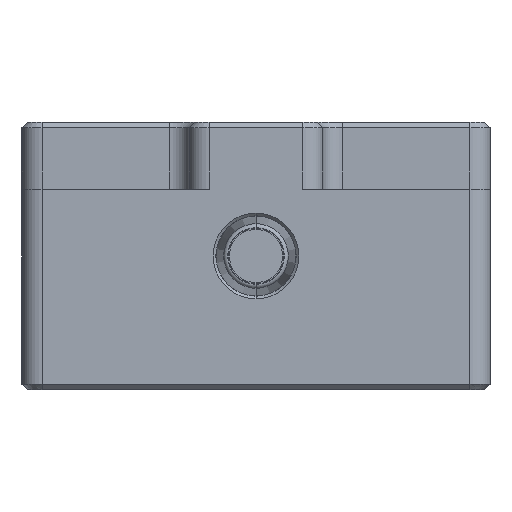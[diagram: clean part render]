
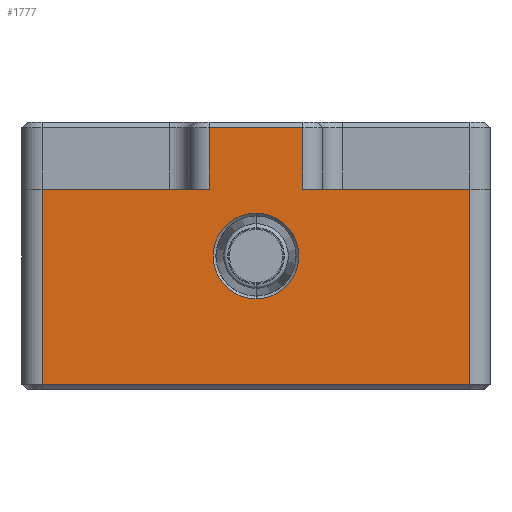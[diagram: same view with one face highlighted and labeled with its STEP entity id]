
A CAD part, front view. The second image highlights one B-rep face of the part: STEP entity #1777.
In plain terms, the highlighted planar face has unit normal (0, -1, 0).
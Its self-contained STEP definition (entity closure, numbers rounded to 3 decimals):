
#21 = VERTEX_POINT ( 'NONE', #1250 ) ;
#71 = LINE ( 'NONE', #2888, #2117 ) ;
#86 = LINE ( 'NONE', #2166, #2324 ) ;
#210 = DIRECTION ( 'NONE',  ( 0., 0., -1. ) ) ;
#214 = DIRECTION ( 'NONE',  ( 0., 0., 1. ) ) ;
#241 = CARTESIAN_POINT ( 'NONE',  ( 16., -42.5, 10. ) ) ;
#244 = AXIS2_PLACEMENT_3D ( 'NONE', #1549, #1976, #214 ) ;
#272 = CARTESIAN_POINT ( 'NONE',  ( 0., -42.5, -3.2 ) ) ;
#289 = AXIS2_PLACEMENT_3D ( 'NONE', #832, #614, #2659 ) ;
#291 = EDGE_LOOP ( 'NONE', ( #1436, #1842 ) ) ;
#363 = DIRECTION ( 'NONE',  ( 1., 0., 0. ) ) ;
#370 = EDGE_CURVE ( 'NONE', #2558, #982, #411, .T. ) ;
#381 = CARTESIAN_POINT ( 'NONE',  ( 3.5, -42.5, 10. ) ) ;
#392 = VECTOR ( 'NONE', #2486, 1000. ) ;
#404 = DIRECTION ( 'NONE',  ( 1., 0., 0. ) ) ;
#411 = LINE ( 'NONE', #2753, #2137 ) ;
#430 = DIRECTION ( 'NONE',  ( 1., 0., 0. ) ) ;
#441 = VERTEX_POINT ( 'NONE', #1716 ) ;
#477 = VERTEX_POINT ( 'NONE', #2850 ) ;
#482 = LINE ( 'NONE', #1585, #930 ) ;
#526 = CARTESIAN_POINT ( 'NONE',  ( 0., -42.5, 3.2 ) ) ;
#528 = DIRECTION ( 'NONE',  ( 0., 0., 1. ) ) ;
#531 = EDGE_CURVE ( 'NONE', #2450, #1739, #767, .T. ) ;
#542 = LINE ( 'NONE', #1766, #1069 ) ;
#548 = ORIENTED_EDGE ( 'NONE', *, *, #1004, .T. ) ;
#614 = DIRECTION ( 'NONE',  ( 0., 1., 0. ) ) ;
#660 = CARTESIAN_POINT ( 'NONE',  ( 17.5, -42.5, 5. ) ) ;
#698 = DIRECTION ( 'NONE',  ( -1., 0., 0. ) ) ;
#754 = PLANE ( 'NONE',  #244 ) ;
#767 = CIRCLE ( 'NONE', #289, 3.2 ) ;
#772 = EDGE_CURVE ( 'NONE', #477, #982, #86, .T. ) ;
#798 = ORIENTED_EDGE ( 'NONE', *, *, #1187, .T. ) ;
#832 = CARTESIAN_POINT ( 'NONE',  ( 0., -42.5, 0. ) ) ;
#853 = EDGE_CURVE ( 'NONE', #21, #441, #2717, .T. ) ;
#920 = VERTEX_POINT ( 'NONE', #1342 ) ;
#930 = VECTOR ( 'NONE', #698, 1000. ) ;
#943 = EDGE_CURVE ( 'NONE', #477, #1851, #542, .T. ) ;
#982 = VERTEX_POINT ( 'NONE', #2520 ) ;
#1004 = EDGE_CURVE ( 'NONE', #1080, #2558, #482, .T. ) ;
#1069 = VECTOR ( 'NONE', #210, 1000. ) ;
#1080 = VERTEX_POINT ( 'NONE', #1482 ) ;
#1089 = ORIENTED_EDGE ( 'NONE', *, *, #772, .F. ) ;
#1119 = FACE_BOUND ( 'NONE', #291, .T. ) ;
#1187 = EDGE_CURVE ( 'NONE', #1851, #920, #71, .T. ) ;
#1250 = CARTESIAN_POINT ( 'NONE',  ( 3.5, -42.5, 5. ) ) ;
#1275 = ORIENTED_EDGE ( 'NONE', *, *, #2188, .T. ) ;
#1277 = EDGE_CURVE ( 'NONE', #920, #441, #2871, .T. ) ;
#1342 = CARTESIAN_POINT ( 'NONE',  ( 16., -42.5, -9.6 ) ) ;
#1373 = AXIS2_PLACEMENT_3D ( 'NONE', #2564, #1434, #528 ) ;
#1392 = LINE ( 'NONE', #381, #2464 ) ;
#1434 = DIRECTION ( 'NONE',  ( 0., 1., 0. ) ) ;
#1436 = ORIENTED_EDGE ( 'NONE', *, *, #531, .T. ) ;
#1462 = EDGE_CURVE ( 'NONE', #1739, #2450, #2086, .T. ) ;
#1482 = CARTESIAN_POINT ( 'NONE',  ( 3.5, -42.5, 9.6 ) ) ;
#1549 = CARTESIAN_POINT ( 'NONE',  ( -17.5, -42.5, 10. ) ) ;
#1585 = CARTESIAN_POINT ( 'NONE',  ( -3.5, -42.5, 9.6 ) ) ;
#1595 = CARTESIAN_POINT ( 'NONE',  ( -3.5, -42.5, 9.6 ) ) ;
#1686 = ORIENTED_EDGE ( 'NONE', *, *, #853, .F. ) ;
#1716 = CARTESIAN_POINT ( 'NONE',  ( 16., -42.5, 5. ) ) ;
#1739 = VERTEX_POINT ( 'NONE', #526 ) ;
#1766 = CARTESIAN_POINT ( 'NONE',  ( -16., -42.5, 10. ) ) ;
#1777 = ADVANCED_FACE ( 'NONE', ( #1119, #1978 ), #754, .F. ) ;
#1842 = ORIENTED_EDGE ( 'NONE', *, *, #1462, .T. ) ;
#1846 = DIRECTION ( 'NONE',  ( 0., 0., -1. ) ) ;
#1851 = VERTEX_POINT ( 'NONE', #2230 ) ;
#1976 = DIRECTION ( 'NONE',  ( 0., 1., 0. ) ) ;
#1978 = FACE_OUTER_BOUND ( 'NONE', #2893, .T. ) ;
#2062 = ORIENTED_EDGE ( 'NONE', *, *, #370, .T. ) ;
#2086 = CIRCLE ( 'NONE', #1373, 3.2 ) ;
#2117 = VECTOR ( 'NONE', #430, 1000. ) ;
#2137 = VECTOR ( 'NONE', #1846, 1000. ) ;
#2166 = CARTESIAN_POINT ( 'NONE',  ( -17.5, -42.5, 5. ) ) ;
#2188 = EDGE_CURVE ( 'NONE', #21, #1080, #1392, .T. ) ;
#2230 = CARTESIAN_POINT ( 'NONE',  ( -16., -42.5, -9.6 ) ) ;
#2288 = ORIENTED_EDGE ( 'NONE', *, *, #943, .T. ) ;
#2320 = ORIENTED_EDGE ( 'NONE', *, *, #1277, .T. ) ;
#2324 = VECTOR ( 'NONE', #363, 1000. ) ;
#2450 = VERTEX_POINT ( 'NONE', #272 ) ;
#2464 = VECTOR ( 'NONE', #2670, 1000. ) ;
#2486 = DIRECTION ( 'NONE',  ( 0., 0., 1. ) ) ;
#2520 = CARTESIAN_POINT ( 'NONE',  ( -3.5, -42.5, 5. ) ) ;
#2558 = VERTEX_POINT ( 'NONE', #1595 ) ;
#2564 = CARTESIAN_POINT ( 'NONE',  ( 0., -42.5, 0. ) ) ;
#2575 = VECTOR ( 'NONE', #404, 1000. ) ;
#2659 = DIRECTION ( 'NONE',  ( 0., 0., 1. ) ) ;
#2670 = DIRECTION ( 'NONE',  ( 0., 0., 1. ) ) ;
#2717 = LINE ( 'NONE', #660, #2575 ) ;
#2753 = CARTESIAN_POINT ( 'NONE',  ( -3.5, -42.5, 10. ) ) ;
#2850 = CARTESIAN_POINT ( 'NONE',  ( -16., -42.5, 5. ) ) ;
#2871 = LINE ( 'NONE', #241, #392 ) ;
#2888 = CARTESIAN_POINT ( 'NONE',  ( -17.5, -42.5, -9.6 ) ) ;
#2893 = EDGE_LOOP ( 'NONE', ( #2288, #798, #2320, #1686, #1275, #548, #2062, #1089 ) ) ;
